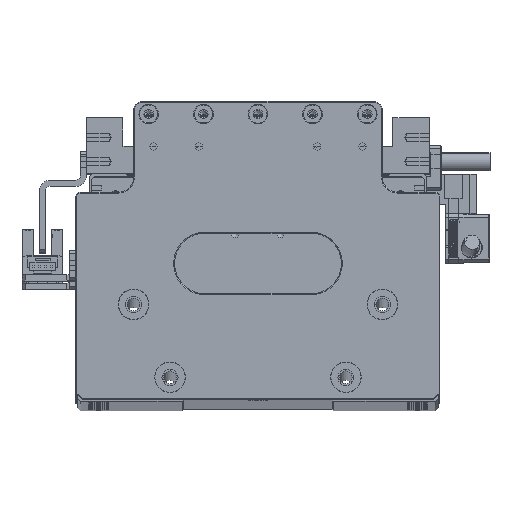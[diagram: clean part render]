
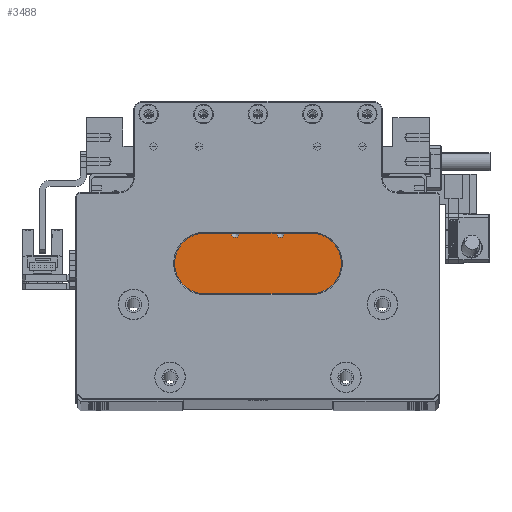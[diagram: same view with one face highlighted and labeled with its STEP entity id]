
A CAD part, top view. The second image highlights one B-rep face of the part: STEP entity #3488.
In plain terms, the highlighted planar face has unit normal (0, 0, 1).
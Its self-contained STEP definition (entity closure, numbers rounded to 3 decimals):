
#302 = CIRCLE ( 'NONE', #106462, 1.25 ) ;
#2685 = ORIENTED_EDGE ( 'NONE', *, *, #6241, .T. ) ;
#2947 = CARTESIAN_POINT ( 'NONE',  ( 7.5, 32.2, 66.894 ) ) ;
#3488 = ADVANCED_FACE ( 'NONE', ( #58566, #16122, #34479 ), #96134, .T. ) ;
#3580 = CARTESIAN_POINT ( 'NONE',  ( 18.5, 40., 66.894 ) ) ;
#5682 = CARTESIAN_POINT ( 'NONE',  ( -18.5, 40., 66.894 ) ) ;
#5868 = ORIENTED_EDGE ( 'NONE', *, *, #38652, .T. ) ;
#6233 = CARTESIAN_POINT ( 'NONE',  ( 0., 32.2, 66.894 ) ) ;
#6241 = EDGE_CURVE ( 'NONE', #9245, #96087, #21248, .T. ) ;
#7311 = DIRECTION ( 'NONE',  ( 0., 0., -1. ) ) ;
#7644 = DIRECTION ( 'NONE',  ( 0., 0., 1. ) ) ;
#7731 = LINE ( 'NONE', #36410, #77069 ) ;
#9245 = VERTEX_POINT ( 'NONE', #5682 ) ;
#10401 = DIRECTION ( 'NONE',  ( -1., 0., 0. ) ) ;
#10452 = EDGE_CURVE ( 'NONE', #107103, #73807, #71354, .T. ) ;
#12040 = DIRECTION ( 'NONE',  ( 1., 0., 0. ) ) ;
#12042 = CARTESIAN_POINT ( 'NONE',  ( -7.5, 32.2, 66.894 ) ) ;
#12383 = VECTOR ( 'NONE', #104332, 1000. ) ;
#12826 = EDGE_CURVE ( 'NONE', #91436, #38448, #107676, .T. ) ;
#12911 = VERTEX_POINT ( 'NONE', #40887 ) ;
#13176 = EDGE_CURVE ( 'NONE', #38448, #91436, #302, .T. ) ;
#16122 = FACE_BOUND ( 'NONE', #31096, .T. ) ;
#16265 = DIRECTION ( 'NONE',  ( 0., -1., 0. ) ) ;
#18213 = VECTOR ( 'NONE', #78305, 1000. ) ;
#19094 = DIRECTION ( 'NONE',  ( 1., 0., 0. ) ) ;
#20478 = LINE ( 'NONE', #27782, #89705 ) ;
#21175 = DIRECTION ( 'NONE',  ( 1., 0., 0. ) ) ;
#21248 = LINE ( 'NONE', #67937, #90466 ) ;
#23331 = VECTOR ( 'NONE', #96722, 1000. ) ;
#24303 = ORIENTED_EDGE ( 'NONE', *, *, #55478, .T. ) ;
#26291 = CARTESIAN_POINT ( 'NONE',  ( 29.8, 32.2, 66.894 ) ) ;
#27782 = CARTESIAN_POINT ( 'NONE',  ( -30., 0.2, 66.894 ) ) ;
#29740 = ORIENTED_EDGE ( 'NONE', *, *, #47260, .T. ) ;
#31096 = EDGE_LOOP ( 'NONE', ( #84807, #65226 ) ) ;
#31590 = DIRECTION ( 'NONE',  ( 0., -1., 0. ) ) ;
#34362 = LINE ( 'NONE', #106366, #103641 ) ;
#34479 = FACE_BOUND ( 'NONE', #112641, .T. ) ;
#36071 = CARTESIAN_POINT ( 'NONE',  ( 7.5, 32.2, 66.894 ) ) ;
#36410 = CARTESIAN_POINT ( 'NONE',  ( 0., 40., 66.894 ) ) ;
#38448 = VERTEX_POINT ( 'NONE', #57641 ) ;
#38652 = EDGE_CURVE ( 'NONE', #47216, #65804, #81014, .T. ) ;
#40076 = EDGE_CURVE ( 'NONE', #91278, #12911, #34362, .T. ) ;
#40887 = CARTESIAN_POINT ( 'NONE',  ( -29.8, 0.2, 66.894 ) ) ;
#42217 = LINE ( 'NONE', #87376, #18213 ) ;
#42934 = AXIS2_PLACEMENT_3D ( 'NONE', #12042, #75308, #21175 ) ;
#45186 = DIRECTION ( 'NONE',  ( 1., 0., 0. ) ) ;
#45706 = CIRCLE ( 'NONE', #42934, 1.25 ) ;
#47216 = VERTEX_POINT ( 'NONE', #81068 ) ;
#47260 = EDGE_CURVE ( 'NONE', #88256, #9245, #7731, .T. ) ;
#53794 = DIRECTION ( 'NONE',  ( -1., 0., 0. ) ) ;
#55478 = EDGE_CURVE ( 'NONE', #12911, #60318, #20478, .T. ) ;
#57641 = CARTESIAN_POINT ( 'NONE',  ( 6.25, 32.2, 66.894 ) ) ;
#58262 = LINE ( 'NONE', #73646, #109159 ) ;
#58504 = ORIENTED_EDGE ( 'NONE', *, *, #40076, .T. ) ;
#58566 = FACE_OUTER_BOUND ( 'NONE', #67063, .T. ) ;
#58806 = ORIENTED_EDGE ( 'NONE', *, *, #115936, .T. ) ;
#60219 = CARTESIAN_POINT ( 'NONE',  ( 0., 40.2, 66.894 ) ) ;
#60253 = AXIS2_PLACEMENT_3D ( 'NONE', #2947, #66203, #12040 ) ;
#60318 = VERTEX_POINT ( 'NONE', #81141 ) ;
#61516 = CARTESIAN_POINT ( 'NONE',  ( -7.5, 32.2, 66.894 ) ) ;
#62626 = CARTESIAN_POINT ( 'NONE',  ( -8.75, 32.2, 66.894 ) ) ;
#63973 = CARTESIAN_POINT ( 'NONE',  ( -18.5, 32.2, 66.894 ) ) ;
#64360 = ORIENTED_EDGE ( 'NONE', *, *, #10452, .T. ) ;
#65226 = ORIENTED_EDGE ( 'NONE', *, *, #13176, .T. ) ;
#65804 = VERTEX_POINT ( 'NONE', #62626 ) ;
#66203 = DIRECTION ( 'NONE',  ( 0., 0., -1. ) ) ;
#67063 = EDGE_LOOP ( 'NONE', ( #29740, #2685, #114532, #58504, #24303, #77532, #64360, #58806 ) ) ;
#67937 = CARTESIAN_POINT ( 'NONE',  ( -18.5, 40.2, 66.894 ) ) ;
#68481 = EDGE_CURVE ( 'NONE', #60318, #107103, #42217, .T. ) ;
#70577 = DIRECTION ( 'NONE',  ( 1., 0., 0. ) ) ;
#70895 = DIRECTION ( 'NONE',  ( 1., 0., 0. ) ) ;
#71354 = LINE ( 'NONE', #6233, #23331 ) ;
#73646 = CARTESIAN_POINT ( 'NONE',  ( 0., 32.2, 66.894 ) ) ;
#73807 = VERTEX_POINT ( 'NONE', #111062 ) ;
#75308 = DIRECTION ( 'NONE',  ( 0., 0., -1. ) ) ;
#77069 = VECTOR ( 'NONE', #53794, 1000. ) ;
#77532 = ORIENTED_EDGE ( 'NONE', *, *, #68481, .T. ) ;
#78305 = DIRECTION ( 'NONE',  ( 0., 1., 0. ) ) ;
#81014 = CIRCLE ( 'NONE', #90706, 1.25 ) ;
#81068 = CARTESIAN_POINT ( 'NONE',  ( -6.25, 32.2, 66.894 ) ) ;
#81141 = CARTESIAN_POINT ( 'NONE',  ( 29.8, 0.2, 66.894 ) ) ;
#84687 = EDGE_CURVE ( 'NONE', #65804, #47216, #45706, .T. ) ;
#84807 = ORIENTED_EDGE ( 'NONE', *, *, #12826, .T. ) ;
#87376 = CARTESIAN_POINT ( 'NONE',  ( 29.8, 40.2, 66.894 ) ) ;
#88256 = VERTEX_POINT ( 'NONE', #3580 ) ;
#89705 = VECTOR ( 'NONE', #19094, 1000. ) ;
#90466 = VECTOR ( 'NONE', #31590, 1000. ) ;
#90706 = AXIS2_PLACEMENT_3D ( 'NONE', #61516, #7311, #70577 ) ;
#91278 = VERTEX_POINT ( 'NONE', #103519 ) ;
#91436 = VERTEX_POINT ( 'NONE', #114550 ) ;
#96087 = VERTEX_POINT ( 'NONE', #63973 ) ;
#96134 = PLANE ( 'NONE',  #97374 ) ;
#96722 = DIRECTION ( 'NONE',  ( -1., 0., 0. ) ) ;
#97374 = AXIS2_PLACEMENT_3D ( 'NONE', #60219, #7644, #70895 ) ;
#99262 = DIRECTION ( 'NONE',  ( 0., 0., -1. ) ) ;
#103519 = CARTESIAN_POINT ( 'NONE',  ( -29.8, 32.2, 66.894 ) ) ;
#103641 = VECTOR ( 'NONE', #16265, 1000. ) ;
#104267 = EDGE_CURVE ( 'NONE', #96087, #91278, #58262, .T. ) ;
#104332 = DIRECTION ( 'NONE',  ( 0., 1., 0. ) ) ;
#105733 = LINE ( 'NONE', #113433, #12383 ) ;
#106366 = CARTESIAN_POINT ( 'NONE',  ( -29.8, 40.2, 66.894 ) ) ;
#106462 = AXIS2_PLACEMENT_3D ( 'NONE', #36071, #99262, #45186 ) ;
#107103 = VERTEX_POINT ( 'NONE', #26291 ) ;
#107676 = CIRCLE ( 'NONE', #60253, 1.25 ) ;
#109159 = VECTOR ( 'NONE', #10401, 1000. ) ;
#109653 = ORIENTED_EDGE ( 'NONE', *, *, #84687, .T. ) ;
#111062 = CARTESIAN_POINT ( 'NONE',  ( 18.5, 32.2, 66.894 ) ) ;
#112641 = EDGE_LOOP ( 'NONE', ( #5868, #109653 ) ) ;
#113433 = CARTESIAN_POINT ( 'NONE',  ( 18.5, 40.2, 66.894 ) ) ;
#114532 = ORIENTED_EDGE ( 'NONE', *, *, #104267, .T. ) ;
#114550 = CARTESIAN_POINT ( 'NONE',  ( 8.75, 32.2, 66.894 ) ) ;
#115936 = EDGE_CURVE ( 'NONE', #73807, #88256, #105733, .T. ) ;
